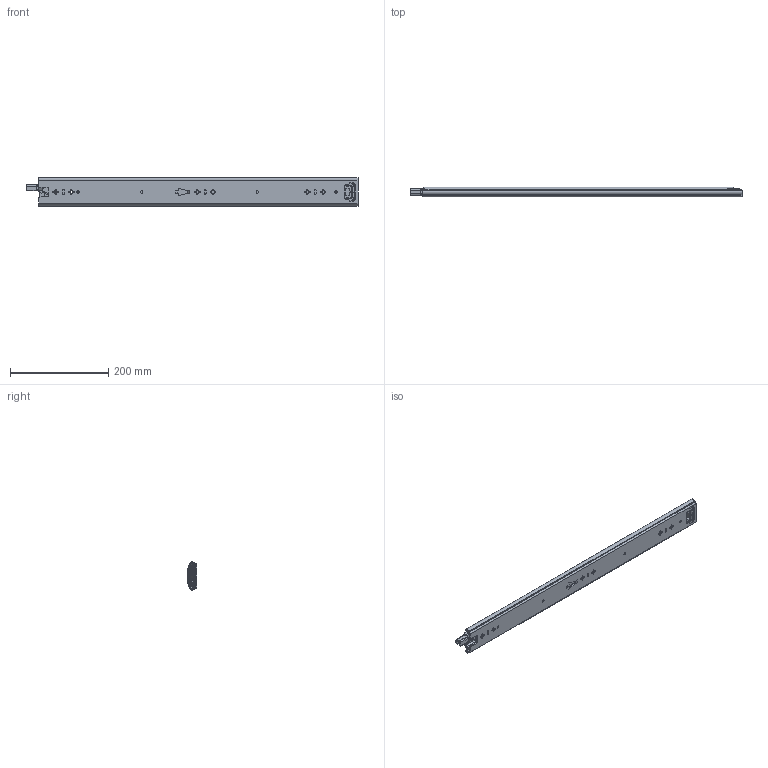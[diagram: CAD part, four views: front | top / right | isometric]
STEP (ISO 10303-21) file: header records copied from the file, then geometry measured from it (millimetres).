
FILE_DESCRIPTION((''),'2;1');
FILE_NAME('KP-57-01ZUZHUANGTU-26YOU_ASM','2023-04-03T',('jishu015'),(''),'PRO/ENGINEER BY PARAMETRIC TECHNOLOGY CORPORATION, 2010280','PRO/ENGINEER BY PARAMETRIC TECHNOLOGY CORPORATION, 2010280','');
FILE_SCHEMA(('CONFIG_CONTROL_DESIGN'));
Products named in the file (21): KP-57-01WEIKE-18______________; 1057WEIJIAO______________; WAIKE_____________ASM; KP-57-01ZHONGGUI-26_; ZHONGGUIPEIJIAN-11____________; ZHONGGUISUOKOU-11____________; KP-57-01ZHONGGUI-26__ASM; 1057XIAOZHUJIA______________; 1057-5-6GANZHU______________; 1057XIAOZHUJIA-14GE26__ASM; KP-57-01NEIGUI-18______________; PJ-57-08____________; DIAOPIAN-11____________; 50XINSUOKOU-1____________; 1053-3SBANJI122__________; JIAO11__________; KP-57-01NEIGUI-18_______________ASM; 1053ZHUTIAO-275_; 53-5-6GANZHU__________________; 1053ZHUTIAO-175MM_____________ASM; KP-57-01ZUZHUANGTU-26YOU_ASM
Assembly tree (74 placements, depth 3):
  KP-57-01ZUZHUANGTU-26YOU_ASM
    WAIKE_____________ASM
      KP-57-01WEIKE-18______________
      1057WEIJIAO______________
    KP-57-01ZHONGGUI-26__ASM
      KP-57-01ZHONGGUI-26_
      ZHONGGUIPEIJIAN-11____________
      ZHONGGUISUOKOU-11____________
    1057XIAOZHUJIA-14GE26__ASM
      1057XIAOZHUJIA______________
      1057-5-6GANZHU______________  x44
    KP-57-01NEIGUI-18_______________ASM
      KP-57-01NEIGUI-18______________
      PJ-57-08____________
      DIAOPIAN-11____________
      50XINSUOKOU-1____________
      1053-3SBANJI122__________
      JIAO11__________
    1053ZHUTIAO-175MM_____________ASM  x2
      1053ZHUTIAO-275_
      53-5-6GANZHU__________________
Bounding box: 675.47 x 19 x 57.67 mm (x, y, z)
Volume: 283975.9 mm3; surface area: 308372.4 mm2
Topology: 82 solids, 82 shells, 2216 faces, 6388 edges, 4005 vertices
Faces by surface type: cylinder 940, plane 920, sphere 143, bspline 103, cone 68, extrusion 23, torus 19
Entity records: 72508 total; most frequent: CARTESIAN_POINT 18122, ORIENTED_EDGE 11532, DIRECTION 11158, EDGE_CURVE 5766, AXIS2_PLACEMENT_3D 3840, VERTEX_POINT 3729, VECTOR 3478, LINE 3455
